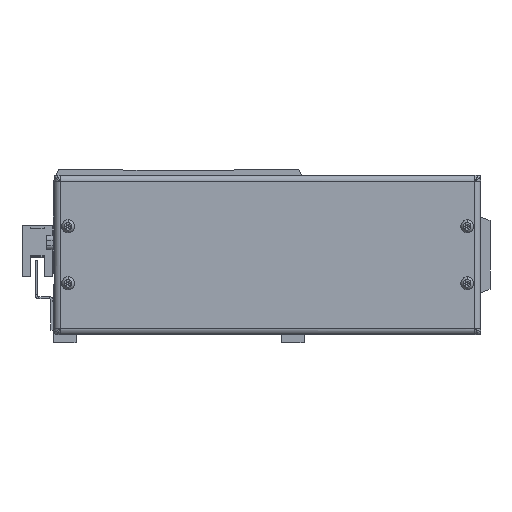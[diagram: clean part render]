
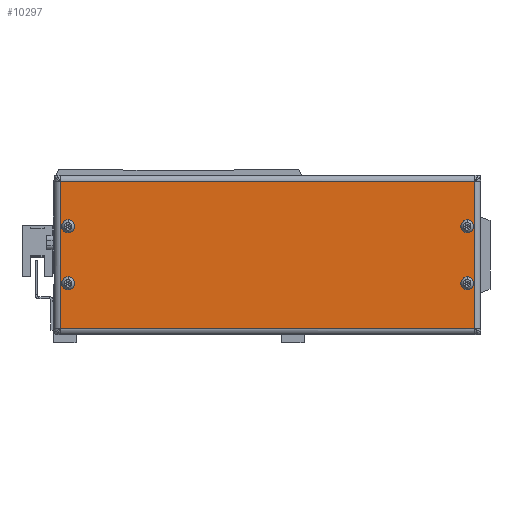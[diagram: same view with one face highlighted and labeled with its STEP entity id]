
A CAD part, front view. The second image highlights one B-rep face of the part: STEP entity #10297.
In plain terms, the highlighted planar face has unit normal (0, -1, 0) as drawn and (0, 0, 1) by its records, which use the part's own axes.
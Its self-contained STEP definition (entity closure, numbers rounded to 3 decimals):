
#691 = DIRECTION ( 'NONE',  ( 0., 0., 1. ) ) ;
#873 = EDGE_CURVE ( 'NONE', #900, #15216, #34952, .T. ) ;
#900 = VERTEX_POINT ( 'NONE', #17129 ) ;
#946 = DIRECTION ( 'NONE',  ( 0., 0., 1. ) ) ;
#962 = EDGE_CURVE ( 'NONE', #11342, #20704, #35430, .T. ) ;
#1914 = AXIS2_PLACEMENT_3D ( 'NONE', #12439, #34389, #3300 ) ;
#3300 = DIRECTION ( 'NONE',  ( 1., 0., 0. ) ) ;
#3744 = CARTESIAN_POINT ( 'NONE',  ( 257.2, -167.567, 987.683 ) ) ;
#4447 = CARTESIAN_POINT ( 'NONE',  ( 82.2, -167.567, 987.683 ) ) ;
#4626 = VERTEX_POINT ( 'NONE', #15582 ) ;
#6155 = FACE_BOUND ( 'NONE', #27770, .T. ) ;
#6221 = AXIS2_PLACEMENT_3D ( 'NONE', #4447, #10458, #20227 ) ;
#6776 = CIRCLE ( 'NONE', #18714, 1.75 ) ;
#6836 = LINE ( 'NONE', #8890, #24007 ) ;
#7154 = DIRECTION ( 'NONE',  ( 1., 0., 0. ) ) ;
#7484 = EDGE_CURVE ( 'NONE', #36875, #37131, #37424, .T. ) ;
#7618 = FACE_BOUND ( 'NONE', #40059, .T. ) ;
#8338 = CARTESIAN_POINT ( 'NONE',  ( 260.464, -122.803, 987.683 ) ) ;
#8890 = CARTESIAN_POINT ( 'NONE',  ( 78.937, -122.774, 987.683 ) ) ;
#9393 = CIRCLE ( 'NONE', #35838, 1.75 ) ;
#9556 = CARTESIAN_POINT ( 'NONE',  ( 83.95, -142.567, 987.683 ) ) ;
#10015 = ORIENTED_EDGE ( 'NONE', *, *, #15388, .F. ) ;
#10247 = EDGE_CURVE ( 'NONE', #36023, #13024, #23824, .T. ) ;
#10297 = ADVANCED_FACE ( 'NONE', ( #31139, #12502, #6155, #7618, #24826 ), #31222, .T. ) ;
#10458 = DIRECTION ( 'NONE',  ( 0., 0., 1. ) ) ;
#10678 = DIRECTION ( 'NONE',  ( 0., 0., 1. ) ) ;
#11032 = EDGE_CURVE ( 'NONE', #37131, #37555, #25705, .T. ) ;
#11342 = VERTEX_POINT ( 'NONE', #9556 ) ;
#12361 = AXIS2_PLACEMENT_3D ( 'NONE', #28859, #691, #38601 ) ;
#12439 = CARTESIAN_POINT ( 'NONE',  ( 104.85, -156.027, 987.683 ) ) ;
#12502 = FACE_BOUND ( 'NONE', #29888, .T. ) ;
#12611 = DIRECTION ( 'NONE',  ( 0., 1., 0. ) ) ;
#13024 = VERTEX_POINT ( 'NONE', #28801 ) ;
#13290 = EDGE_CURVE ( 'NONE', #37555, #19012, #6836, .T. ) ;
#13461 = CARTESIAN_POINT ( 'NONE',  ( 82.2, -167.567, 987.683 ) ) ;
#13625 = DIRECTION ( 'NONE',  ( 1., 0., 0. ) ) ;
#13835 = CIRCLE ( 'NONE', #6221, 1.75 ) ;
#13938 = ORIENTED_EDGE ( 'NONE', *, *, #10247, .F. ) ;
#14605 = VECTOR ( 'NONE', #32816, 1000. ) ;
#14660 = DIRECTION ( 'NONE',  ( 0., 0., 1. ) ) ;
#15216 = VERTEX_POINT ( 'NONE', #29972 ) ;
#15388 = EDGE_CURVE ( 'NONE', #13024, #36023, #33968, .T. ) ;
#15582 = CARTESIAN_POINT ( 'NONE',  ( 80.45, -167.567, 987.683 ) ) ;
#16619 = CARTESIAN_POINT ( 'NONE',  ( 80.45, -142.567, 987.683 ) ) ;
#16630 = DIRECTION ( 'NONE',  ( 0., 0., 1. ) ) ;
#16760 = EDGE_CURVE ( 'NONE', #20704, #11342, #6776, .T. ) ;
#17124 = AXIS2_PLACEMENT_3D ( 'NONE', #3744, #946, #19240 ) ;
#17129 = CARTESIAN_POINT ( 'NONE',  ( 255.45, -167.567, 987.683 ) ) ;
#17333 = VECTOR ( 'NONE', #33013, 1000. ) ;
#17952 = ORIENTED_EDGE ( 'NONE', *, *, #34355, .F. ) ;
#18016 = EDGE_CURVE ( 'NONE', #28964, #4626, #13835, .T. ) ;
#18095 = EDGE_CURVE ( 'NONE', #15216, #900, #9393, .T. ) ;
#18245 = AXIS2_PLACEMENT_3D ( 'NONE', #13461, #16630, #22986 ) ;
#18714 = AXIS2_PLACEMENT_3D ( 'NONE', #19668, #22822, #7154 ) ;
#18949 = CARTESIAN_POINT ( 'NONE',  ( 260.464, -187.359, 987.683 ) ) ;
#19012 = VERTEX_POINT ( 'NONE', #40392 ) ;
#19171 = CARTESIAN_POINT ( 'NONE',  ( 260.464, -187.33, 987.683 ) ) ;
#19240 = DIRECTION ( 'NONE',  ( 1., 0., 0. ) ) ;
#19473 = ORIENTED_EDGE ( 'NONE', *, *, #16760, .F. ) ;
#19577 = CARTESIAN_POINT ( 'NONE',  ( 260.493, -122.803, 987.683 ) ) ;
#19668 = CARTESIAN_POINT ( 'NONE',  ( 82.2, -142.567, 987.683 ) ) ;
#20227 = DIRECTION ( 'NONE',  ( 1., 0., 0. ) ) ;
#20704 = VERTEX_POINT ( 'NONE', #16619 ) ;
#20746 = CIRCLE ( 'NONE', #18245, 1.75 ) ;
#21481 = CARTESIAN_POINT ( 'NONE',  ( 258.95, -142.567, 987.683 ) ) ;
#22202 = CARTESIAN_POINT ( 'NONE',  ( 78.937, -122.803, 987.683 ) ) ;
#22487 = EDGE_CURVE ( 'NONE', #19012, #36875, #38564, .T. ) ;
#22536 = EDGE_LOOP ( 'NONE', ( #30160, #19473 ) ) ;
#22822 = DIRECTION ( 'NONE',  ( 0., 0., 1. ) ) ;
#22986 = DIRECTION ( 'NONE',  ( 1., 0., 0. ) ) ;
#23283 = CARTESIAN_POINT ( 'NONE',  ( 78.907, -187.33, 987.683 ) ) ;
#23607 = ORIENTED_EDGE ( 'NONE', *, *, #873, .F. ) ;
#23824 = CIRCLE ( 'NONE', #39620, 1.75 ) ;
#24007 = VECTOR ( 'NONE', #24021, 1000. ) ;
#24021 = DIRECTION ( 'NONE',  ( 0., -1., 0. ) ) ;
#24193 = CARTESIAN_POINT ( 'NONE',  ( 83.95, -167.567, 987.683 ) ) ;
#24817 = AXIS2_PLACEMENT_3D ( 'NONE', #38848, #10678, #32351 ) ;
#24826 = FACE_OUTER_BOUND ( 'NONE', #36418, .T. ) ;
#25705 = LINE ( 'NONE', #19577, #17333 ) ;
#26808 = DIRECTION ( 'NONE',  ( 0., 0., 1. ) ) ;
#27193 = ORIENTED_EDGE ( 'NONE', *, *, #18095, .F. ) ;
#27770 = EDGE_LOOP ( 'NONE', ( #27193, #23607 ) ) ;
#28801 = CARTESIAN_POINT ( 'NONE',  ( 255.45, -142.567, 987.683 ) ) ;
#28859 = CARTESIAN_POINT ( 'NONE',  ( 257.2, -142.567, 987.683 ) ) ;
#28964 = VERTEX_POINT ( 'NONE', #24193 ) ;
#29138 = VECTOR ( 'NONE', #12611, 1000. ) ;
#29888 = EDGE_LOOP ( 'NONE', ( #40022, #17952 ) ) ;
#29972 = CARTESIAN_POINT ( 'NONE',  ( 258.95, -167.567, 987.683 ) ) ;
#30160 = ORIENTED_EDGE ( 'NONE', *, *, #962, .F. ) ;
#31139 = FACE_BOUND ( 'NONE', #22536, .T. ) ;
#31222 = PLANE ( 'NONE',  #1914 ) ;
#31873 = ORIENTED_EDGE ( 'NONE', *, *, #13290, .T. ) ;
#32351 = DIRECTION ( 'NONE',  ( 1., 0., 0. ) ) ;
#32453 = ORIENTED_EDGE ( 'NONE', *, *, #7484, .T. ) ;
#32816 = DIRECTION ( 'NONE',  ( 1., 0., 0. ) ) ;
#33013 = DIRECTION ( 'NONE',  ( -1., 0., 0. ) ) ;
#33968 = CIRCLE ( 'NONE', #12361, 1.75 ) ;
#34355 = EDGE_CURVE ( 'NONE', #4626, #28964, #20746, .T. ) ;
#34389 = DIRECTION ( 'NONE',  ( 0., 0., 1. ) ) ;
#34555 = ORIENTED_EDGE ( 'NONE', *, *, #11032, .T. ) ;
#34665 = DIRECTION ( 'NONE',  ( 1., 0., 0. ) ) ;
#34952 = CIRCLE ( 'NONE', #17124, 1.75 ) ;
#35430 = CIRCLE ( 'NONE', #24817, 1.75 ) ;
#35838 = AXIS2_PLACEMENT_3D ( 'NONE', #36078, #26808, #13625 ) ;
#36023 = VERTEX_POINT ( 'NONE', #21481 ) ;
#36078 = CARTESIAN_POINT ( 'NONE',  ( 257.2, -167.567, 987.683 ) ) ;
#36418 = EDGE_LOOP ( 'NONE', ( #37572, #32453, #34555, #31873 ) ) ;
#36875 = VERTEX_POINT ( 'NONE', #19171 ) ;
#37111 = CARTESIAN_POINT ( 'NONE',  ( 257.2, -142.567, 987.683 ) ) ;
#37131 = VERTEX_POINT ( 'NONE', #8338 ) ;
#37424 = LINE ( 'NONE', #18949, #29138 ) ;
#37555 = VERTEX_POINT ( 'NONE', #22202 ) ;
#37572 = ORIENTED_EDGE ( 'NONE', *, *, #22487, .T. ) ;
#38564 = LINE ( 'NONE', #23283, #14605 ) ;
#38601 = DIRECTION ( 'NONE',  ( 1., 0., 0. ) ) ;
#38848 = CARTESIAN_POINT ( 'NONE',  ( 82.2, -142.567, 987.683 ) ) ;
#39620 = AXIS2_PLACEMENT_3D ( 'NONE', #37111, #14660, #34665 ) ;
#40022 = ORIENTED_EDGE ( 'NONE', *, *, #18016, .F. ) ;
#40059 = EDGE_LOOP ( 'NONE', ( #13938, #10015 ) ) ;
#40392 = CARTESIAN_POINT ( 'NONE',  ( 78.937, -187.33, 987.683 ) ) ;
